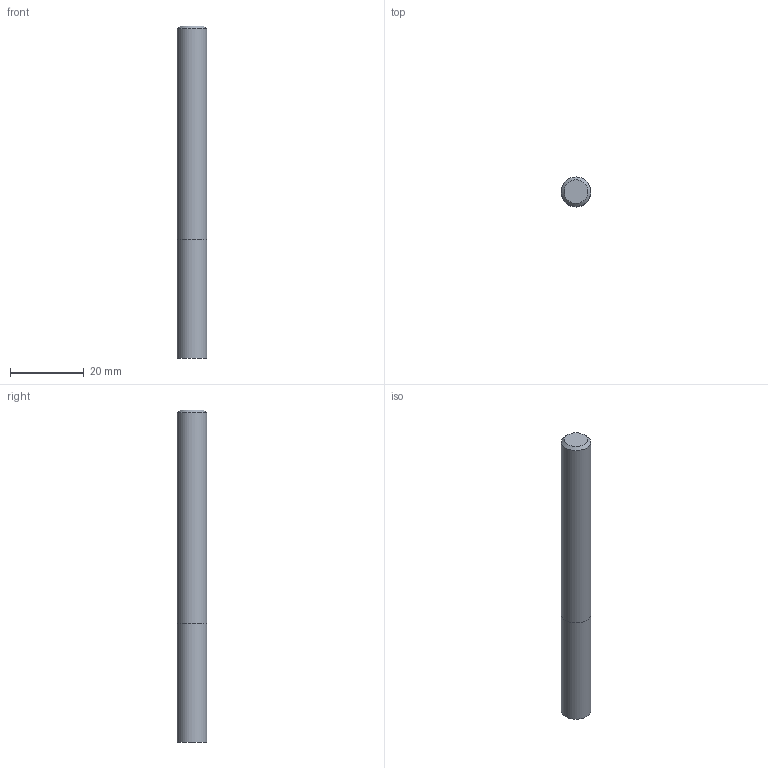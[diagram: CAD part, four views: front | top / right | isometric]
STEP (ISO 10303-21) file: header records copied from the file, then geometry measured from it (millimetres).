
FILE_DESCRIPTION((''),'2;1');
FILE_NAME('C:\Users\nsx150\AppData\Local\Temp\Mastercam 2021\W9Z147XDNF\TEMP.step','2021-04-08T14:47:24',(''),(''),'STEP Write','Mastercam 2021 ... CNC Software, Inc.','');
FILE_SCHEMA(('AUTOMOTIVE_DESIGN'));
Length unit declared in the file: millimetre
Products named in the file (1): None
Bounding box: 8 x 8 x 90 mm (x, y, z)
Volume: 4516.4 mm3; surface area: 2450.4 mm2
Topology: 2 solids, 2 shells, 7 faces, 8 edges, 5 vertices
Faces by surface type: plane 4, cylinder 2, cone 1
Full cylindrical faces by diameter (mm): 8 x2
Entity records: 169 total; most frequent: DIRECTION 28, CARTESIAN_POINT 19, AXIS2_PLACEMENT_3D 14, ORIENTED_EDGE 10, EDGE_LOOP 10, STYLED_ITEM 10, ADVANCED_FACE 7, VERTEX_POINT 5
